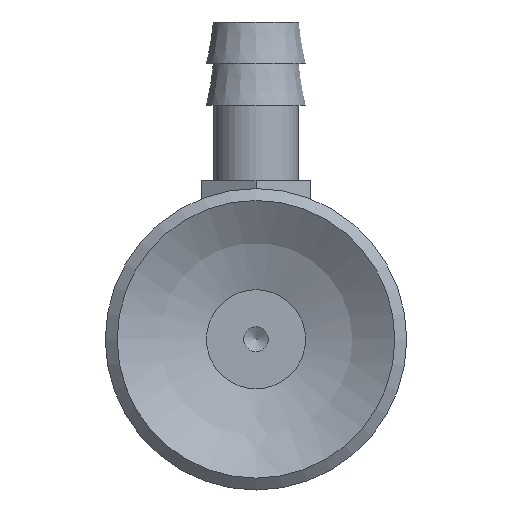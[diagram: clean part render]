
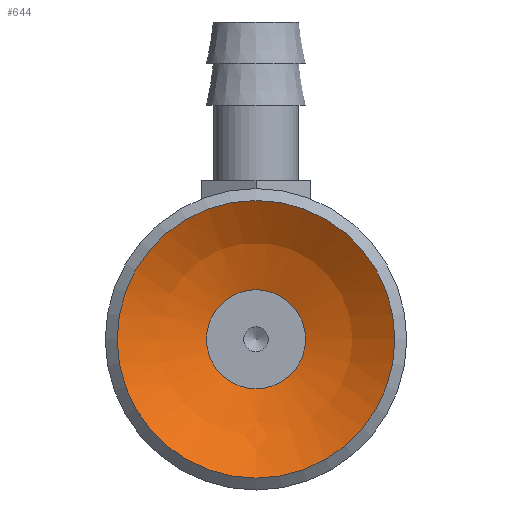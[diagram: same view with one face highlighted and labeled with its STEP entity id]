
A CAD part, front view. The second image highlights one B-rep face of the part: STEP entity #644.
In plain terms, the highlighted spherical face has radius 11.5 mm.
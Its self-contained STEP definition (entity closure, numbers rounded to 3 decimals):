
#644=ADVANCED_FACE('',(#1069,#1070),#1071,.F.);
#1069=FACE_OUTER_BOUND('',#1635,.T.);
#1070=FACE_OUTER_BOUND('',#1636,.T.);
#1071=SPHERICAL_SURFACE('',#1637,11.5);
#1635=EDGE_LOOP('',(#2805));
#1636=EDGE_LOOP('',(#2806));
#1637=AXIS2_PLACEMENT_3D('',#2807,#2808,#2809);
#2805=ORIENTED_EDGE('',*,*,#3771,.T.);
#2806=ORIENTED_EDGE('',*,*,#3772,.F.);
#2807=CARTESIAN_POINT('',(0.001,9.494,-22.735));
#2808=DIRECTION('',(0.0,0.,-1.0));
#2809=DIRECTION('',(1.0,0.0,0.0));
#3771=EDGE_CURVE('',#4443,#4443,#4444,.T.);
#3772=EDGE_CURVE('',#4445,#4445,#4446,.T.);
#4443=VERTEX_POINT('',#6248);
#4444=CIRCLE('',#6249,7.0);
#4445=VERTEX_POINT('',#6250);
#4446=CIRCLE('',#6251,2.5);
#6248=CARTESIAN_POINT('',(0.001,16.494,-13.611));
#6249=AXIS2_PLACEMENT_3D('',#6946,#6947,#6948);
#6250=CARTESIAN_POINT('',(0.001,11.994,-11.51));
#6251=AXIS2_PLACEMENT_3D('',#6949,#6950,#6951);
#6946=CARTESIAN_POINT('',(0.001,9.494,-13.611));
#6947=DIRECTION('',(0.0,0.,-1.0));
#6948=DIRECTION('',(0.0,1.0,0.));
#6949=CARTESIAN_POINT('',(0.001,9.494,-11.51));
#6950=DIRECTION('',(0.0,0.,-1.0));
#6951=DIRECTION('',(0.0,1.0,0.));
